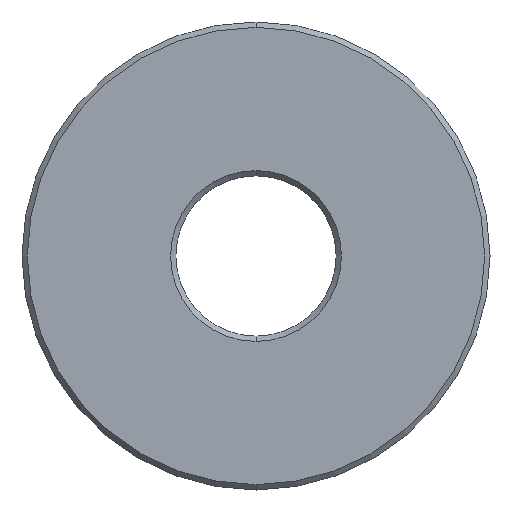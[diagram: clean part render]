
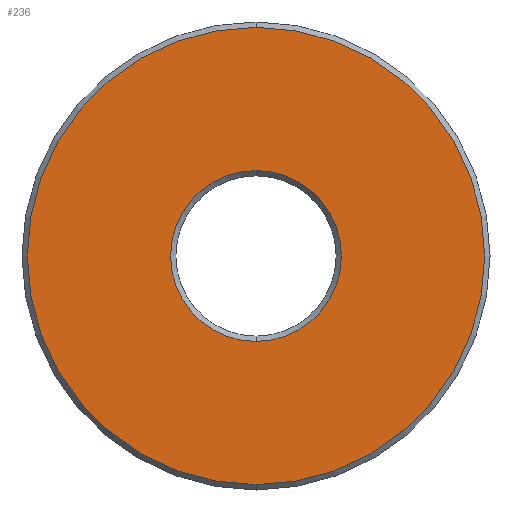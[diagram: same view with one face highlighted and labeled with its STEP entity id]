
A CAD part, front view. The second image highlights one B-rep face of the part: STEP entity #236.
In plain terms, the highlighted planar face has unit normal (0, -1, 0).
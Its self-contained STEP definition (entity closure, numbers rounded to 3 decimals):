
#2 = CARTESIAN_POINT ( 'NONE',  ( 0., 0., 0. ) ) ;
#25 = CARTESIAN_POINT ( 'NONE',  ( 0., 0., 0. ) ) ;
#26 = CIRCLE ( 'NONE', #242, 12.845 ) ;
#28 = ORIENTED_EDGE ( 'NONE', *, *, #34, .T. ) ;
#34 = EDGE_CURVE ( 'NONE', #305, #277, #104, .T. ) ;
#35 = DIRECTION ( 'NONE',  ( 0., 0., 1. ) ) ;
#79 = CIRCLE ( 'NONE', #243, 4.8 ) ;
#81 = DIRECTION ( 'NONE',  ( 0., -1., 0. ) ) ;
#99 = EDGE_CURVE ( 'NONE', #277, #305, #26, .T. ) ;
#104 = CIRCLE ( 'NONE', #424, 12.845 ) ;
#131 = CARTESIAN_POINT ( 'NONE',  ( 0., 0., 0. ) ) ;
#137 = ORIENTED_EDGE ( 'NONE', *, *, #99, .T. ) ;
#139 = VERTEX_POINT ( 'NONE', #306 ) ;
#149 = CARTESIAN_POINT ( 'NONE',  ( 0., 0., -4.8 ) ) ;
#176 = DIRECTION ( 'NONE',  ( 0., 1., 0. ) ) ;
#188 = DIRECTION ( 'NONE',  ( 0., 0., 1. ) ) ;
#193 = CARTESIAN_POINT ( 'NONE',  ( 0., 0., 12.845 ) ) ;
#203 = EDGE_CURVE ( 'NONE', #139, #559, #492, .T. ) ;
#218 = CARTESIAN_POINT ( 'NONE',  ( 0., 0., 0. ) ) ;
#236 = ADVANCED_FACE ( 'NONE', ( #557, #425 ), #269, .F. ) ;
#242 = AXIS2_PLACEMENT_3D ( 'NONE', #25, #81, #452 ) ;
#243 = AXIS2_PLACEMENT_3D ( 'NONE', #218, #476, #388 ) ;
#259 = EDGE_CURVE ( 'NONE', #559, #139, #79, .T. ) ;
#265 = EDGE_LOOP ( 'NONE', ( #28, #137 ) ) ;
#267 = DIRECTION ( 'NONE',  ( 0., 1., 0. ) ) ;
#269 = PLANE ( 'NONE',  #369 ) ;
#277 = VERTEX_POINT ( 'NONE', #523 ) ;
#294 = DIRECTION ( 'NONE',  ( 0., -1., 0. ) ) ;
#305 = VERTEX_POINT ( 'NONE', #193 ) ;
#306 = CARTESIAN_POINT ( 'NONE',  ( 0., 0., 4.8 ) ) ;
#307 = EDGE_LOOP ( 'NONE', ( #395, #520 ) ) ;
#369 = AXIS2_PLACEMENT_3D ( 'NONE', #2, #176, #188 ) ;
#388 = DIRECTION ( 'NONE',  ( 0., 0., 1. ) ) ;
#395 = ORIENTED_EDGE ( 'NONE', *, *, #259, .T. ) ;
#412 = CARTESIAN_POINT ( 'NONE',  ( 0., 0., 0. ) ) ;
#424 = AXIS2_PLACEMENT_3D ( 'NONE', #412, #294, #35 ) ;
#425 = FACE_BOUND ( 'NONE', #307, .T. ) ;
#452 = DIRECTION ( 'NONE',  ( 0., 0., 1. ) ) ;
#476 = DIRECTION ( 'NONE',  ( 0., 1., 0. ) ) ;
#480 = DIRECTION ( 'NONE',  ( 0., 0., 1. ) ) ;
#492 = CIRCLE ( 'NONE', #552, 4.8 ) ;
#520 = ORIENTED_EDGE ( 'NONE', *, *, #203, .T. ) ;
#523 = CARTESIAN_POINT ( 'NONE',  ( 0., 0., -12.845 ) ) ;
#552 = AXIS2_PLACEMENT_3D ( 'NONE', #131, #267, #480 ) ;
#557 = FACE_OUTER_BOUND ( 'NONE', #265, .T. ) ;
#559 = VERTEX_POINT ( 'NONE', #149 ) ;
